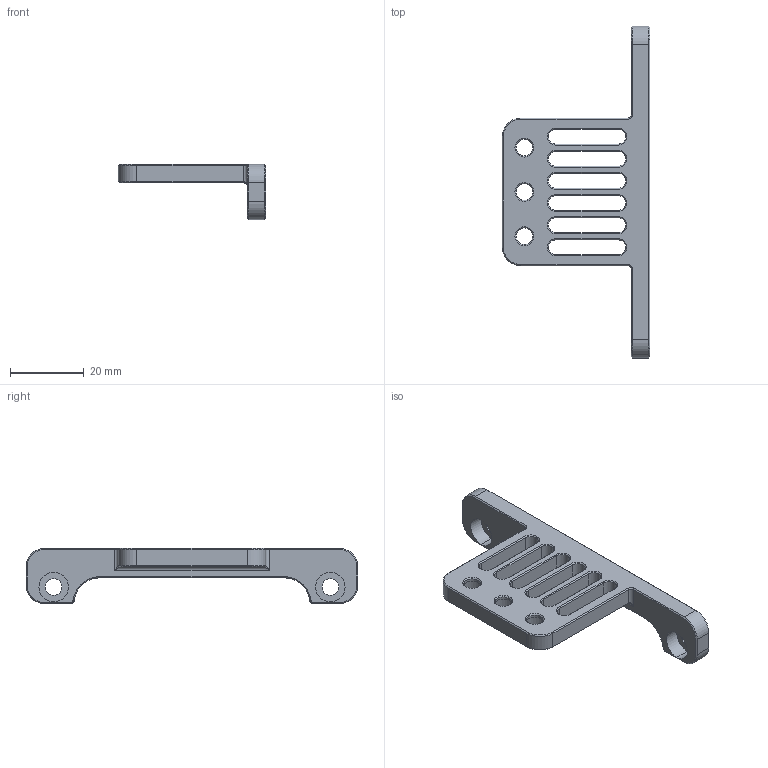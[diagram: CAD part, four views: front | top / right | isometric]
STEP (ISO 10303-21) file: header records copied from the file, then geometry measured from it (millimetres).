
FILE_DESCRIPTION (( 'STEP AP214' ), '1' );
FILE_NAME ('樓詢啣.STEP', '2026-10-09T05:41:31', ( '' ), ( '' ), 'SwSTEP 2.0', 'SolidWorks 2024', '' );
FILE_SCHEMA (( 'AUTOMOTIVE_DESIGN' ));
Length unit declared in the file: millimetre
Products named in the file (1): 加高板
Bounding box: 40 x 90 x 15 mm (x, y, z)
Volume: 7902.9 mm3; surface area: 6551.7 mm2
Topology: 1 solids, 1 shells, 199 faces, 462 edges, 268 vertices
Faces by surface type: cone 74, plane 72, cylinder 51, bspline 2
Entity records: 5861 total; most frequent: CARTESIAN_POINT 1196, DIRECTION 1028, ORIENTED_EDGE 920, EDGE_CURVE 460, AXIS2_PLACEMENT_3D 376, VECTOR 276, LINE 276, VERTEX_POINT 268
